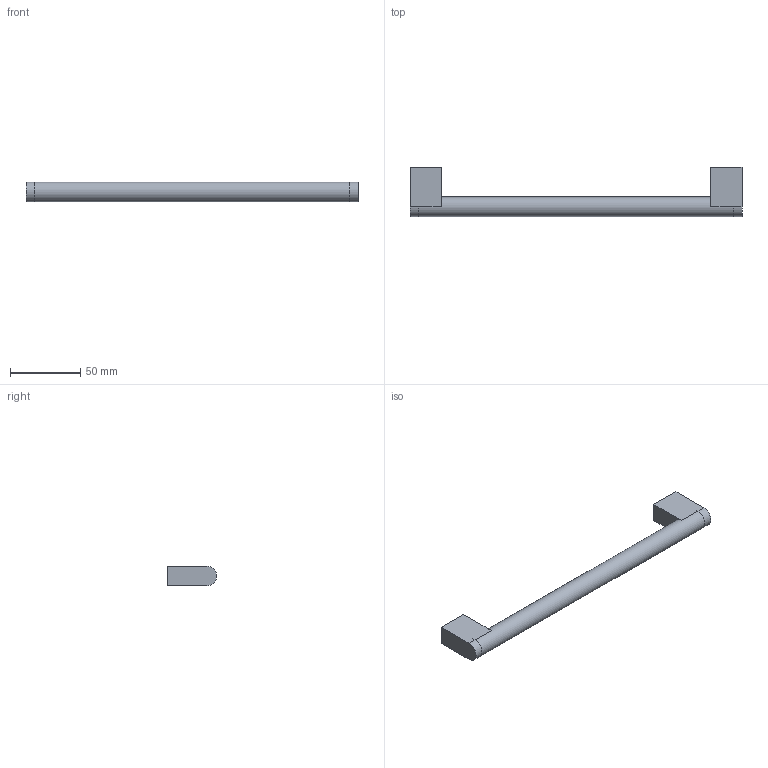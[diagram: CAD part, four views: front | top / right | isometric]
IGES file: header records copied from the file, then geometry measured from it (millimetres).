
Start section: Data from Parasolid IGES Translator 17.0.49, Copyright(c) 2006 Siemens P LM Software. All Rights Reserved.
Global section: file name: 9070106.igs; native system: By Siemens PLM Incorporated; preprocessor: XPlus GENERIC/IGES 17.0.49; author: Noname; organization: Noname; date: 20181120.154642; units: millimetre
Bounding box: 236 x 35 x 14 mm (x, y, z)
Surface area: 15761 mm2 (no closed solid volume)
Topology: 0 solids, 0 shells, 21 faces, 82 edges, 78 vertices
Faces by surface type: extrusion 14, revolution 7
